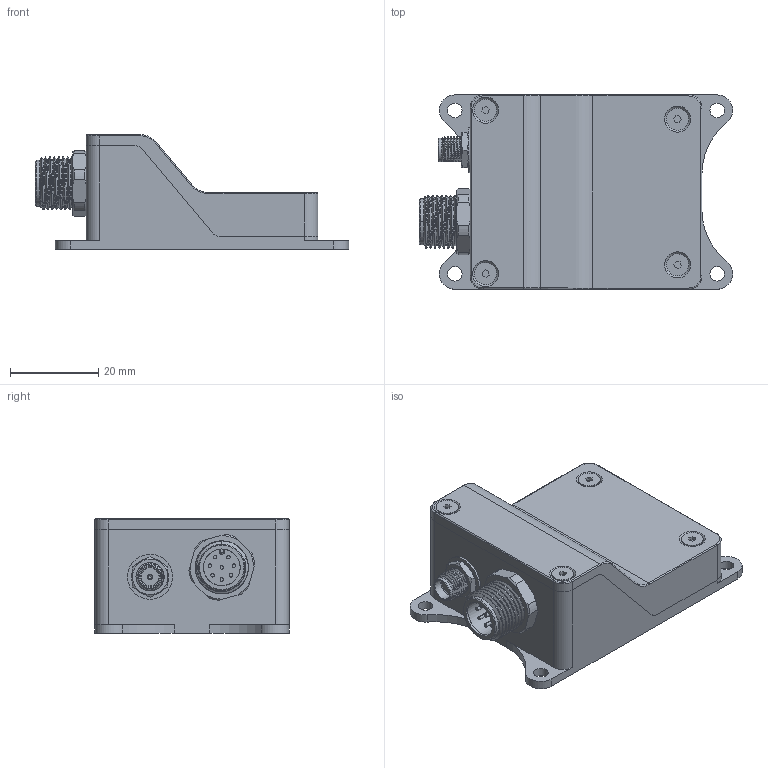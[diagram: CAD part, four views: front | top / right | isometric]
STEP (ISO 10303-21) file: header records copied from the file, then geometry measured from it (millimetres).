
FILE_DESCRIPTION(/* description */ (''),/* implementation_level */ '2;1');
FILE_NAME(/* name */ 'C:\Releases\Data_Link\101010\SDL24-101010\SDL24-101010_website\3d_Data_Link - SDL24-101010.stp',/* time_stamp */ '2023-02-02T17:39:59+01:00',/* author */ ('jbs3'),/* organization */ (''),/* preprocessor_version */ 'ST-DEVELOPER v17',/* originating_system */ 'Autodesk Inventor 2018',/* authorisation */ '');
FILE_SCHEMA (('AUTOMOTIVE_DESIGN { 1 0 10303 214 3 1 1 }'));
Products named in the file (1): 000 Ensamblaje - 3d_Data_Link - SDL24 - Dummy
Bounding box: 70.97 x 44 x 26 mm (x, y, z)
Volume: 16656.9 mm3; surface area: 21745.3 mm2
Topology: 12 solids, 12 shells, 826 faces, 2216 edges, 1428 vertices
Faces by surface type: cylinder 287, plane 286, bspline 112, cone 84, torus 41, sphere 16
Full cylindrical faces by diameter (mm): 0.95 x1, 1.27 x1, 2.05 x2, 2.25 x2, 2.5 x4, 2.7 x4, 3.3 x4, 4 x2, 4.1 x1, 4.2 x4, 4.65 x1, 5 x4, 5.33 x1, 6 x1, 6.6 x1, 8 x1, 9.8 x1, 10.2 x1, 11 x1, 12.1 x1
Entity records: 52460 total; most frequent: CARTESIAN_POINT 31311, ORIENTED_EDGE 4430, DIRECTION 3971, EDGE_CURVE 2215, AXIS2_PLACEMENT_3D 1443, VERTEX_POINT 1428, LINE 1085, VECTOR 1085
